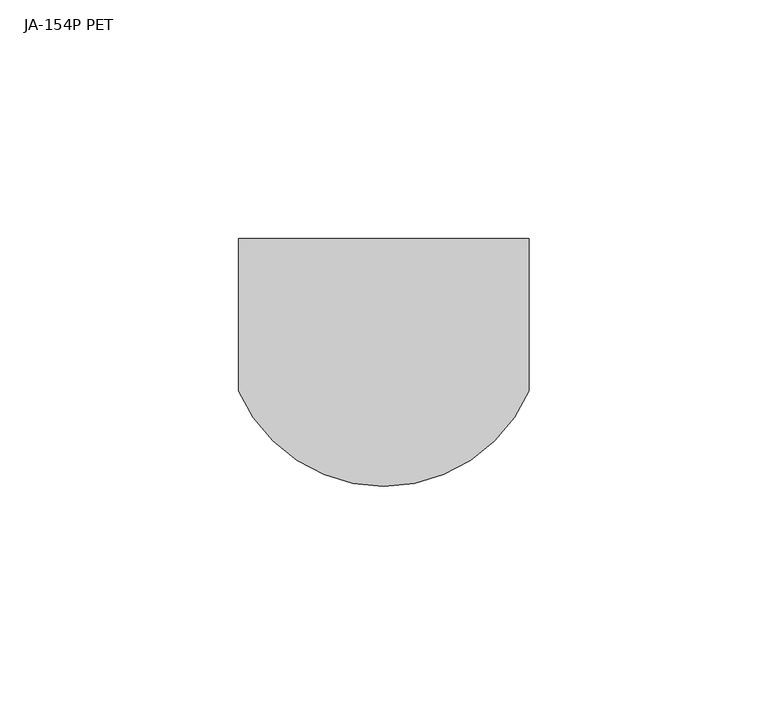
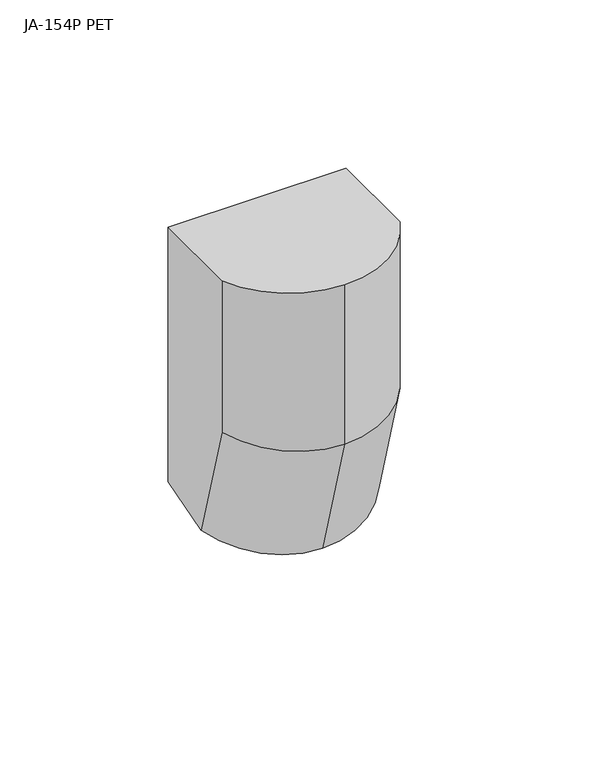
"""IFC4 building model written with IfcOpenShell, lengths in millimetres: proxy geometry, PIR detektory.CC : JA-154P PET."""

from ifc_helpers import new_model, si_unit, frame, origin, place, context, project, spatial, circle_curve, ellipse_curve, source, transform, mapped, element, save
from ifc_brep_helpers import plane_surface, cylinder_surface, advanced_brep


def ja_154p_pet_a73beba8(model_context):
    return source(origin(), model_context, "Body", "AdvancedBrep", [
        advanced_brep(
        [(30.5, 0.0, 49.0), (-30.5, 0.0, 49.0), (-30.5, -32.0, 49.0), (0.0, -52.0, 49.0), (30.5, -32.0, 49.0), (30.5, 0.0, -43.3597331), (-30.5, 0.0, -43.3597331), (-30.5, -19.6699484, -49.0), (-30.5, -32.0, -6.0), (30.5, -32.0, -6.0), (30.5, -19.6699484, -49.0), (0.0, -38.8951823, -54.5127471), (0.0, -52.0, -8.8108167)],
        [
            (0, 1),
            (1, 2),
            (2, 3, circle_curve(frame((0.0, -18.74375, 49.0), z_axis=(0.0, 0.0, 1.0), x_axis=(1.0, 0.0, 0.0)), 33.25625)),
            (3, 4, circle_curve(frame((0.0, -18.74375, 49.0), z_axis=(0.0, 0.0, 1.0), x_axis=(1.0, 0.0, 0.0)), 33.25625)),
            (4, 0),
            (0, 5),
            (5, 6),
            (6, 1),
            (6, 7),
            (7, 8),
            (8, 2),
            (4, 9),
            (9, 10),
            (10, 5),
            (10, 11, circle_curve(frame((0.0, -6.9272231, -45.3460823), z_axis=(0.0, 0.27563735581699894, -0.961261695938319), x_axis=(1.0, 0.0, 0.0)), 33.25625)),
            (11, 7, circle_curve(frame((0.0, -6.9272231, -45.3460823), z_axis=(0.0, 0.27563735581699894, -0.961261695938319), x_axis=(1.0, 0.0, 0.0)), 33.25625)),
            (8, 12, ellipse_curve(frame((0.0, -18.74375, -4.1369556), z_axis=(0.0, -0.13917310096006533, 0.9902680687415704), x_axis=(0.0, 0.9902680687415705, 0.1391731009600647)), 33.5830782, 33.25625)),
            (12, 3),
            (12, 9, ellipse_curve(frame((0.0, -18.74375, -4.1369556), z_axis=(0.0, -0.13917310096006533, 0.9902680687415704), x_axis=(0.0, 0.9902680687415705, 0.1391731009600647)), 33.5830782, 33.25625)),
            (11, 12),
        ],
        [
            plane_surface(frame((0.0, -32.0, 49.0), z_axis=(0.0, 0.0, 1.0), x_axis=(1.0, 0.0, 0.0))),
            plane_surface(frame((30.5, 0.0, 49.0), z_axis=(0.0, 1.0, 0.0), x_axis=(0.0, 0.0, -1.0))),
            plane_surface(frame((-30.5, 0.0, 49.0), z_axis=(-1.0, 0.0, 0.0), x_axis=(0.0, 0.0, -1.0))),
            plane_surface(frame((30.5, -32.0, 49.0), z_axis=(1.0, 0.0, 0.0), x_axis=(0.0, 0.0, -1.0))),
            plane_surface(frame((0.0, -19.6699484, -49.0), z_axis=(0.0, 0.27563735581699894, -0.961261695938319), x_axis=(1.0, 0.0, 0.0))),
            cylinder_surface(frame((0.0, -18.74375, 49.0), z_axis=(0.0, 0.0, 1.0), x_axis=(1.0, 0.0, 0.0)), 33.25625),
            cylinder_surface(frame((0.0, -19.2572746, -2.3460823), z_axis=(0.0, -0.27563735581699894, 0.961261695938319), x_axis=(1.0, 0.0, 0.0)), 33.25625),
        ],
        [
            (0, [[1, 2, 3, 4, 5]]),
            (1, [[-1, 6, 7, 8]]),
            (2, [[-2, -8, 9, 10, 11]]),
            (3, [[-6, -5, 12, 13, 14]]),
            (4, [[15, 16, -9, -7, -14]]),
            (5, [[-3, -11, 17, 18]]),
            (5, [[-4, -18, 19, -12]]),
            (6, [[-10, -16, 20, -17]]),
            (6, [[-13, -19, -20, -15]]),
        ],
    ),
    ])


if __name__ == "__main__":
    model = new_model("IFC4")
    model_context = context("Model", 3, world=origin())
    ifc_project = project(units=[si_unit("LENGTHUNIT", "METRE", prefix="MILLI")], contexts=[model_context])
    site = spatial("IfcSite", under=ifc_project)
    building = spatial("IfcBuilding", under=site)
    placement = place(None, origin())
    ja_154p_pet_shape = ja_154p_pet_a73beba8(model_context)
    element("IfcBuildingElementProxy", 1, Name="PIR detektory.CC : JA-154P PET", ObjectType="PIR detektory.CC : JA-154P PET", at=placement, inside=building, context=model_context, shape_type="MappedRepresentation", body=[
        mapped(ja_154p_pet_shape, transform((0.0, 0.0, 0.0), x_axis=(1.0, 0.0, 0.0), y_axis=(0.0, 1.0, 0.0), z_axis=(0.0, 0.0, 1.0))),
    ])
    save(model, "model.ifc")
